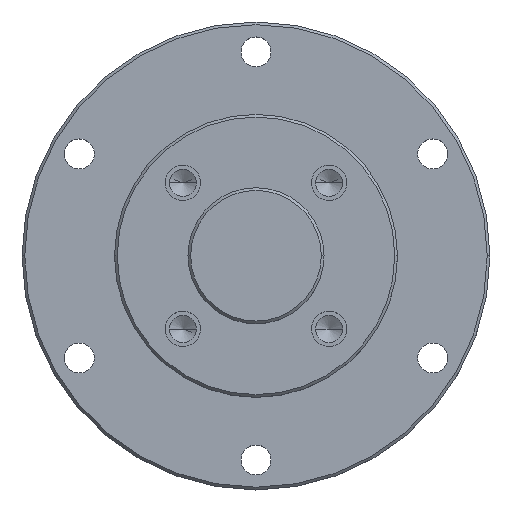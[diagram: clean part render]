
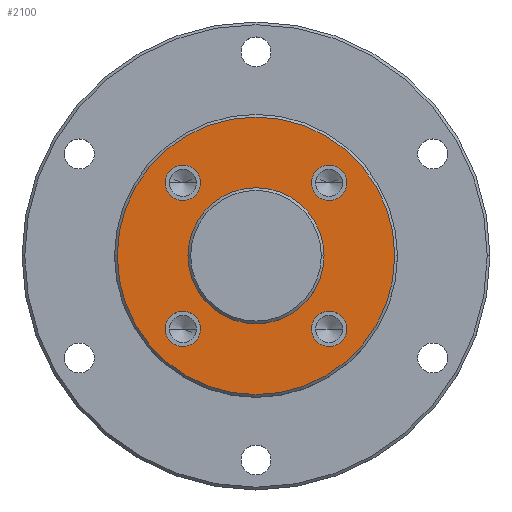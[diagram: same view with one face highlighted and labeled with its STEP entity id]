
A CAD part, top view. The second image highlights one B-rep face of the part: STEP entity #2100.
In plain terms, the highlighted planar face has unit normal (0, 0, 1).
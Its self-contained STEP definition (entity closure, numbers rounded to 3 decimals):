
#4 = DIRECTION ( 'NONE',  ( 0., 0., 1. ) ) ;
#20 = DIRECTION ( 'NONE',  ( 0., 0., 1. ) ) ;
#24 = AXIS2_PLACEMENT_3D ( 'NONE', #1435, #487, #1642 ) ;
#82 = AXIS2_PLACEMENT_3D ( 'NONE', #1616, #608, #1825 ) ;
#89 = DIRECTION ( 'NONE',  ( 0., 0., 1. ) ) ;
#167 = CARTESIAN_POINT ( 'NONE',  ( -25.5, 0., 0. ) ) ;
#184 = DIRECTION ( 'NONE',  ( 0., 0., 1. ) ) ;
#190 = CIRCLE ( 'NONE', #1961, 25.5 ) ;
#259 = CARTESIAN_POINT ( 'NONE',  ( 13.435, 13.435, 0. ) ) ;
#271 = VERTEX_POINT ( 'NONE', #1696 ) ;
#293 = CIRCLE ( 'NONE', #2069, 12.5 ) ;
#299 = CARTESIAN_POINT ( 'NONE',  ( 25.5, 0., 0. ) ) ;
#385 = CIRCLE ( 'NONE', #24, 3.25 ) ;
#404 = DIRECTION ( 'NONE',  ( -1., 0., 0. ) ) ;
#406 = CIRCLE ( 'NONE', #82, 25.5 ) ;
#453 = CARTESIAN_POINT ( 'NONE',  ( 10.185, 13.435, 0. ) ) ;
#487 = DIRECTION ( 'NONE',  ( 0., 0., 1. ) ) ;
#499 = DIRECTION ( 'NONE',  ( 0., 0., 1. ) ) ;
#511 = CARTESIAN_POINT ( 'NONE',  ( -16.685, -13.435, 0. ) ) ;
#550 = CARTESIAN_POINT ( 'NONE',  ( 16.685, -13.435, 0. ) ) ;
#580 = DIRECTION ( 'NONE',  ( 0., 0., 1. ) ) ;
#592 = PLANE ( 'NONE',  #671 ) ;
#594 = CARTESIAN_POINT ( 'NONE',  ( -10.185, 13.435, 0. ) ) ;
#608 = DIRECTION ( 'NONE',  ( 0., 0., 1. ) ) ;
#671 = AXIS2_PLACEMENT_3D ( 'NONE', #886, #743, #2010 ) ;
#703 = CARTESIAN_POINT ( 'NONE',  ( -16.685, 13.435, 0. ) ) ;
#743 = DIRECTION ( 'NONE',  ( 0., 0., -1. ) ) ;
#753 = AXIS2_PLACEMENT_3D ( 'NONE', #1575, #580, #1791 ) ;
#793 = CARTESIAN_POINT ( 'NONE',  ( 0., 0., 0. ) ) ;
#822 = DIRECTION ( 'NONE',  ( 0., 0., 1. ) ) ;
#878 = DIRECTION ( 'NONE',  ( 1., 0., 0. ) ) ;
#885 = CARTESIAN_POINT ( 'NONE',  ( -13.435, -13.435, 0. ) ) ;
#886 = CARTESIAN_POINT ( 'NONE',  ( 0., 26., 0. ) ) ;
#900 = EDGE_LOOP ( 'NONE', ( #1240, #1246 ) ) ;
#904 = CARTESIAN_POINT ( 'NONE',  ( 13.435, 13.435, 0. ) ) ;
#918 = VERTEX_POINT ( 'NONE', #594 ) ;
#944 = EDGE_CURVE ( 'NONE', #2090, #1803, #406, .T. ) ;
#955 = AXIS2_PLACEMENT_3D ( 'NONE', #259, #1324, #404 ) ;
#957 = DIRECTION ( 'NONE',  ( 1., 0., 0. ) ) ;
#962 = CARTESIAN_POINT ( 'NONE',  ( 10.185, -13.435, 0. ) ) ;
#975 = CARTESIAN_POINT ( 'NONE',  ( 13.435, -13.435, 0. ) ) ;
#994 = EDGE_CURVE ( 'NONE', #1279, #1619, #385, .T. ) ;
#997 = EDGE_LOOP ( 'NONE', ( #1344, #1338 ) ) ;
#1005 = ORIENTED_EDGE ( 'NONE', *, *, #1693, .F. ) ;
#1032 = CARTESIAN_POINT ( 'NONE',  ( 12.5, 0., 0. ) ) ;
#1048 = DIRECTION ( 'NONE',  ( -1., 0., 0. ) ) ;
#1051 = AXIS2_PLACEMENT_3D ( 'NONE', #1074, #184, #1224 ) ;
#1056 = DIRECTION ( 'NONE',  ( -1., 0., 0. ) ) ;
#1074 = CARTESIAN_POINT ( 'NONE',  ( 13.435, -13.435, 0. ) ) ;
#1121 = EDGE_CURVE ( 'NONE', #2016, #271, #293, .T. ) ;
#1124 = DIRECTION ( 'NONE',  ( 1., 0., 0. ) ) ;
#1141 = AXIS2_PLACEMENT_3D ( 'NONE', #904, #20, #1056 ) ;
#1150 = AXIS2_PLACEMENT_3D ( 'NONE', #885, #4, #1048 ) ;
#1160 = EDGE_LOOP ( 'NONE', ( #1162, #1168 ) ) ;
#1162 = ORIENTED_EDGE ( 'NONE', *, *, #2038, .F. ) ;
#1168 = ORIENTED_EDGE ( 'NONE', *, *, #1659, .F. ) ;
#1179 = EDGE_LOOP ( 'NONE', ( #1318, #1378 ) ) ;
#1180 = EDGE_CURVE ( 'NONE', #1803, #2090, #190, .T. ) ;
#1182 = AXIS2_PLACEMENT_3D ( 'NONE', #1572, #1980, #878 ) ;
#1212 = VERTEX_POINT ( 'NONE', #962 ) ;
#1224 = DIRECTION ( 'NONE',  ( 1., 0., 0. ) ) ;
#1240 = ORIENTED_EDGE ( 'NONE', *, *, #1180, .T. ) ;
#1246 = ORIENTED_EDGE ( 'NONE', *, *, #944, .T. ) ;
#1264 = AXIS2_PLACEMENT_3D ( 'NONE', #1914, #822, #2111 ) ;
#1274 = AXIS2_PLACEMENT_3D ( 'NONE', #975, #89, #1124 ) ;
#1279 = VERTEX_POINT ( 'NONE', #1519 ) ;
#1318 = ORIENTED_EDGE ( 'NONE', *, *, #994, .F. ) ;
#1324 = DIRECTION ( 'NONE',  ( 0., 0., 1. ) ) ;
#1338 = ORIENTED_EDGE ( 'NONE', *, *, #1784, .F. ) ;
#1344 = ORIENTED_EDGE ( 'NONE', *, *, #1920, .F. ) ;
#1378 = ORIENTED_EDGE ( 'NONE', *, *, #1731, .F. ) ;
#1387 = ORIENTED_EDGE ( 'NONE', *, *, #1121, .F. ) ;
#1400 = VERTEX_POINT ( 'NONE', #550 ) ;
#1414 = ORIENTED_EDGE ( 'NONE', *, *, #1834, .F. ) ;
#1419 = ORIENTED_EDGE ( 'NONE', *, *, #1626, .F. ) ;
#1435 = CARTESIAN_POINT ( 'NONE',  ( -13.435, -13.435, 0. ) ) ;
#1463 = CARTESIAN_POINT ( 'NONE',  ( 0., 0., 0. ) ) ;
#1475 = VERTEX_POINT ( 'NONE', #703 ) ;
#1519 = CARTESIAN_POINT ( 'NONE',  ( -10.185, -13.435, 0. ) ) ;
#1572 = CARTESIAN_POINT ( 'NONE',  ( 0., 0., 0. ) ) ;
#1575 = CARTESIAN_POINT ( 'NONE',  ( -13.435, 13.435, 0. ) ) ;
#1616 = CARTESIAN_POINT ( 'NONE',  ( 0., 0., 0. ) ) ;
#1619 = VERTEX_POINT ( 'NONE', #511 ) ;
#1626 = EDGE_CURVE ( 'NONE', #1400, #1212, #2075, .T. ) ;
#1642 = DIRECTION ( 'NONE',  ( -1., 0., 0. ) ) ;
#1656 = FACE_BOUND ( 'NONE', #1179, .T. ) ;
#1657 = FACE_BOUND ( 'NONE', #1925, .T. ) ;
#1658 = FACE_BOUND ( 'NONE', #2173, .T. ) ;
#1659 = EDGE_CURVE ( 'NONE', #1475, #918, #2042, .T. ) ;
#1662 = DIRECTION ( 'NONE',  ( -1., 0., 0. ) ) ;
#1675 = FACE_OUTER_BOUND ( 'NONE', #900, .T. ) ;
#1679 = FACE_BOUND ( 'NONE', #1160, .T. ) ;
#1693 = EDGE_CURVE ( 'NONE', #271, #2016, #2002, .T. ) ;
#1696 = CARTESIAN_POINT ( 'NONE',  ( -12.5, 0., 0. ) ) ;
#1712 = FACE_BOUND ( 'NONE', #997, .T. ) ;
#1718 = CIRCLE ( 'NONE', #753, 3.25 ) ;
#1731 = EDGE_CURVE ( 'NONE', #1619, #1279, #1949, .T. ) ;
#1773 = VERTEX_POINT ( 'NONE', #453 ) ;
#1784 = EDGE_CURVE ( 'NONE', #1773, #2176, #1934, .T. ) ;
#1791 = DIRECTION ( 'NONE',  ( 1., 0., 0. ) ) ;
#1803 = VERTEX_POINT ( 'NONE', #167 ) ;
#1810 = CIRCLE ( 'NONE', #955, 3.25 ) ;
#1825 = DIRECTION ( 'NONE',  ( -1., 0., 0. ) ) ;
#1834 = EDGE_CURVE ( 'NONE', #1212, #1400, #1911, .T. ) ;
#1911 = CIRCLE ( 'NONE', #1051, 3.25 ) ;
#1914 = CARTESIAN_POINT ( 'NONE',  ( -13.435, 13.435, 0. ) ) ;
#1920 = EDGE_CURVE ( 'NONE', #2176, #1773, #1810, .T. ) ;
#1925 = EDGE_LOOP ( 'NONE', ( #1419, #1414 ) ) ;
#1934 = CIRCLE ( 'NONE', #1141, 3.25 ) ;
#1949 = CIRCLE ( 'NONE', #1150, 3.25 ) ;
#1961 = AXIS2_PLACEMENT_3D ( 'NONE', #1463, #499, #1662 ) ;
#1980 = DIRECTION ( 'NONE',  ( 0., 0., 1. ) ) ;
#2002 = CIRCLE ( 'NONE', #1182, 12.5 ) ;
#2010 = DIRECTION ( 'NONE',  ( -1., 0., 0. ) ) ;
#2016 = VERTEX_POINT ( 'NONE', #1032 ) ;
#2038 = EDGE_CURVE ( 'NONE', #918, #1475, #1718, .T. ) ;
#2042 = CIRCLE ( 'NONE', #1264, 3.25 ) ;
#2050 = CARTESIAN_POINT ( 'NONE',  ( 16.685, 13.435, 0. ) ) ;
#2069 = AXIS2_PLACEMENT_3D ( 'NONE', #793, #2079, #957 ) ;
#2075 = CIRCLE ( 'NONE', #1274, 3.25 ) ;
#2079 = DIRECTION ( 'NONE',  ( 0., 0., 1. ) ) ;
#2090 = VERTEX_POINT ( 'NONE', #299 ) ;
#2100 = ADVANCED_FACE ( 'NONE', ( #1675, #1679, #1656, #1712, #1657, #1658 ), #592, .F. ) ;
#2111 = DIRECTION ( 'NONE',  ( 1., 0., 0. ) ) ;
#2173 = EDGE_LOOP ( 'NONE', ( #1387, #1005 ) ) ;
#2176 = VERTEX_POINT ( 'NONE', #2050 ) ;
